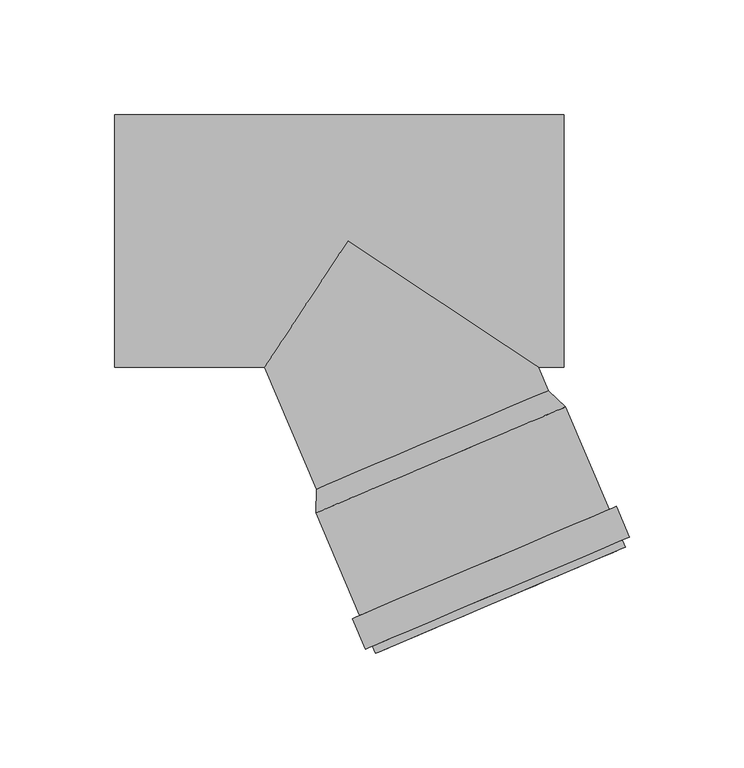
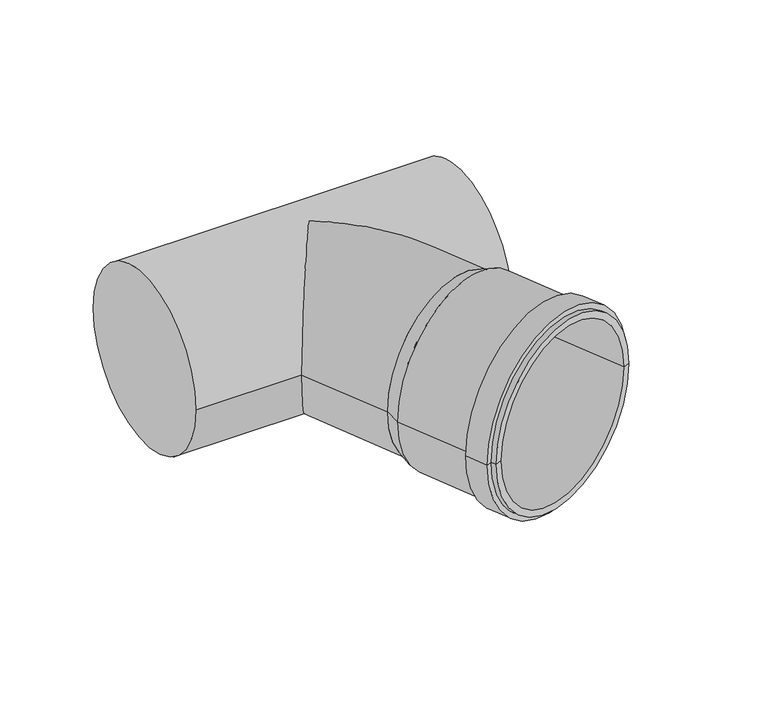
"""IFC4 building model written with IfcOpenShell, lengths in millimetres: pipe fitting geometry, pf_HTEA : pf_HTEA."""

import ifcopenshell
import ifcopenshell.guid

model = None  # the IFC model being written
_history = None  # IfcOwnerHistory: only IFC2X3 demands one
_inside = {}  # id of a spatial element -> (the spatial element, [elements in it])
_under = {}  # id of a project, library or spatial element -> (it, [spatial elements below it])
_declared = {}  # id of a project -> (the project, [libraries it declares])
_typed = {}  # id of a type object -> (the type object, [elements of that type])
_made_of = {}  # id of a material, layer set ... -> (it, [elements and type objects made of it])


def new_model(schema):
    """Start an empty IFC model of exactly this schema.

    Asked for "IFC4X3", IfcOpenShell would pick the latest addendum, in which some entities
    have other attributes; the version numbers below select the first issue.
    IFC2X3 requires an IfcOwnerHistory on every rooted entity: one is made here for all.
    """
    global model, _history
    if schema == "IFC4X3":
        model = ifcopenshell.file(schema_version=(4, 3, 0, 0))
    else:
        model = ifcopenshell.file(schema=schema)
    _inside.clear()
    _under.clear()
    _declared.clear()
    _typed.clear()
    _made_of.clear()
    _history = None
    if model.schema == "IFC2X3":
        org = make("IfcOrganization", Name="unknown")
        user = make(
            "IfcPersonAndOrganization",
            ThePerson=make("IfcPerson", FamilyName="unknown"),
            TheOrganization=org,
        )
        app = make(
            "IfcApplication",
            ApplicationDeveloper=org,
            Version="unknown",
            ApplicationFullName="unknown",
            ApplicationIdentifier="unknown",
        )
        _history = make(
            "IfcOwnerHistory",
            OwningUser=user,
            OwningApplication=app,
            ChangeAction="ADDED",
            CreationDate=0,
        )
    return model


def make(cls, **values):
    """One entity of the class cls with the attributes given. An attribute that is None is left unset."""
    return model.create_entity(
        cls, **{name: value for name, value in values.items() if value is not None}
    )


def rooted(cls, **values):
    """An entity with a GlobalId (a new one), such as an element, a storey or a relation."""
    return make(cls, GlobalId=ifcopenshell.guid.new(), OwnerHistory=_history, **values)


def si_unit(unit_type, name, prefix=None):
    """IfcSIUnit, for example si_unit("LENGTHUNIT", "METRE", prefix="MILLI")."""
    return make("IfcSIUnit", UnitType=unit_type, Prefix=prefix, Name=name)


def assignment(units):
    """IfcUnitAssignment: the units of a project."""
    return None if units is None else make("IfcUnitAssignment", Units=units)


def point(xyz):
    """IfcCartesianPoint."""
    return None if xyz is None else make("IfcCartesianPoint", Coordinates=xyz)


def direction(xyz):
    """IfcDirection."""
    return None if xyz is None else make("IfcDirection", DirectionRatios=xyz)


def frame(location, z_axis=None, x_axis=None):
    """IfcAxis2Placement3D, a coordinate frame: its origin and axes. An axis left out is left unset."""
    return make(
        "IfcAxis2Placement3D",
        Location=point(location),
        Axis=direction(z_axis),
        RefDirection=direction(x_axis),
    )


def origin():
    """The frame at (0, 0, 0) with its axes left unset."""
    return frame((0.0, 0.0, 0.0))


def place(relative_to, where):
    """IfcLocalPlacement: puts the frame where relative to a parent placement (None: the world)."""
    return make(
        "IfcLocalPlacement", PlacementRelTo=relative_to, RelativePlacement=where
    )


def context(
    kind, dimensions, precision=None, world=None, true_north=None, identifier=None
):
    """IfcGeometricRepresentationContext, for example the 3D "Model" context."""
    return make(
        "IfcGeometricRepresentationContext",
        ContextIdentifier=identifier,
        ContextType=kind,
        CoordinateSpaceDimension=dimensions,
        Precision=precision,
        WorldCoordinateSystem=world,
        TrueNorth=true_north,
    )


def project(units=None, contexts=None):
    """IfcProject with its units and contexts."""
    return rooted(
        "IfcProject",
        Name="project",
        RepresentationContexts=contexts,
        UnitsInContext=assignment(units),
    )


def spatial(cls, under=None, at=None, **own):
    """A site, building, storey or space (cls), placed at a placement, below another one or the project."""
    s = rooted(cls, ObjectPlacement=at, **own)
    if under is not None:
        _under.setdefault(under.id(), (under, []))[1].append(s)
    return s


def polyline(points):
    """IfcPolyline through the points."""
    return make("IfcPolyline", Points=[point(p) for p in points])


def circle_curve(where, radius):
    """IfcCircle in the frame where."""
    return make("IfcCircle", Position=where, Radius=radius)


def ellipse_curve(where, semi_axis1, semi_axis2):
    """IfcEllipse in the frame where."""
    return make(
        "IfcEllipse", Position=where, SemiAxis1=semi_axis1, SemiAxis2=semi_axis2
    )


def shape(context_of_items, identifier, shape_type, items):
    """IfcShapeRepresentation: the items that make up one representation, for example the "Body"."""
    return make(
        "IfcShapeRepresentation",
        ContextOfItems=context_of_items,
        RepresentationIdentifier=identifier,
        RepresentationType=shape_type,
        Items=items,
    )


def source(mapping_origin, context_of_items, identifier, shape_type, items):
    """IfcRepresentationMap: a shape defined once, which mapped items show again and again."""
    return make(
        "IfcRepresentationMap",
        MappingOrigin=mapping_origin,
        MappedRepresentation=shape(context_of_items, identifier, shape_type, items),
    )


def transform(
    local_origin,
    x_axis=None,
    y_axis=None,
    z_axis=None,
    scale=None,
    scale2=None,
    scale3=None,
    uniform=True,
):
    """IfcCartesianTransformationOperator3D, or its non-uniform kind. x_axis, y_axis, z_axis: its Axis1, 2, 3."""
    if uniform:
        return make(
            "IfcCartesianTransformationOperator3D",
            Axis1=direction(x_axis),
            Axis2=direction(y_axis),
            LocalOrigin=point(local_origin),
            Scale=scale,
            Axis3=direction(z_axis),
        )
    return make(
        "IfcCartesianTransformationOperator3DnonUniform",
        Axis1=direction(x_axis),
        Axis2=direction(y_axis),
        LocalOrigin=point(local_origin),
        Scale=scale,
        Axis3=direction(z_axis),
        Scale2=scale2,
        Scale3=scale3,
    )


def mapped(mapping_source, mapping_target):
    """IfcMappedItem: shows the shape of a source again, moved by a transform."""
    return make(
        "IfcMappedItem", MappingSource=mapping_source, MappingTarget=mapping_target
    )


def made_of(thing, what):
    """Note that an element or type object is made of a material, layer set ...; save() writes the relation."""
    if what is not None:
        _made_of.setdefault(what.id(), (what, []))[1].append(thing)
    return thing


def element(
    cls,
    number,
    at=None,
    inside=None,
    cuts=None,
    type_object=None,
    material=None,
    context=None,
    identifier="Body",
    shape_type=None,
    held_by="IfcProductDefinitionShape",
    body=None,
    shapes=None,
    **own,
):
    """One element of the class cls, such as IfcWall. Its Tag is "e" and its number.

    at: its placement. inside: the storey or other place that contains it. cuts: it is an
    opening in that element (IfcRelVoidsElement). A single representation is given by context,
    identifier, shape_type and body (its items); several are given by shapes. held_by: the class
    of the entity that holds the representations. save() writes the other relations.
    """
    e = rooted(cls, Tag="e%d" % number, ObjectPlacement=at, **own)
    if body is not None:
        shapes = [shape(context, identifier, shape_type, body)]
    if shapes is not None:
        e.Representation = make(held_by, Representations=shapes)
    if inside is not None:
        _inside.setdefault(inside.id(), (inside, []))[1].append(e)
    if cuts is not None:
        rooted(
            "IfcRelVoidsElement", RelatingBuildingElement=cuts, RelatedOpeningElement=e
        )
    if type_object is not None:
        _typed.setdefault(type_object.id(), (type_object, []))[1].append(e)
    return made_of(e, material)


def aggregate(whole, parts):
    """IfcRelAggregates: a whole, such as a stair, and the parts it consists of."""
    return rooted("IfcRelAggregates", RelatingObject=whole, RelatedObjects=parts)


def save(model, path):
    """Write the relations noted so far, then the file.

    IfcRelAggregates (storeys below a building ...), IfcRelContainedInSpatialStructure (elements
    in a storey), IfcRelDefinesByType, IfcRelAssociatesMaterial and IfcRelDeclares: one each for
    every whole, place, type object, material and project.
    """
    for whole, parts in _under.values():
        aggregate(whole, parts)
    for where, things in _inside.values():
        rooted(
            "IfcRelContainedInSpatialStructure",
            RelatedElements=things,
            RelatingStructure=where,
        )
    for kind, things in _typed.values():
        rooted("IfcRelDefinesByType", RelatedObjects=things, RelatingType=kind)
    for what, things in _made_of.values():
        rooted("IfcRelAssociatesMaterial", RelatedObjects=things, RelatingMaterial=what)
    for by, libraries in _declared.values():
        rooted("IfcRelDeclares", RelatingContext=by, RelatedDefinitions=libraries)
    model.write(path)


def plane_surface(at):
    """IfcPlane: the flat surface through the origin of the frame at, square to its z axis."""
    return make("IfcPlane", Position=at)


def cylinder_surface(at, radius):
    """IfcCylindricalSurface: all points at the distance radius from the z axis of the frame at."""
    return make("IfcCylindricalSurface", Position=at, Radius=radius)


def revolved_surface(curve, axis_point, axis_direction):
    """IfcSurfaceOfRevolution: the curve turned about the line through axis_point along axis_direction."""
    return make(
        "IfcSurfaceOfRevolution",
        SweptCurve=make("IfcArbitraryOpenProfileDef", ProfileType="CURVE", Curve=curve),
        AxisPosition=make("IfcAxis1Placement", Location=point(axis_point), Axis=direction(axis_direction)),
    )


def advanced_brep(points, edges, surfaces, faces):
    """IfcAdvancedBrep: a solid bounded by faces that lie on surfaces and meet in shared edges.

    An edge is (start, end): straight between two places in points (the first is 0);
    or (start, end, curve); or (start, end, curve, False) where it runs against its curve.
    A face is (place in surfaces, loops), or (place, loops, False) where it looks against
    its surface's normal. A loop lists edges by number (the first is 1), with a minus sign
    where the edge is run from its end to its start. The first loop is the outer one.
    """
    corners = [point(p) for p in points]
    vertices = [make("IfcVertexPoint", VertexGeometry=c) for c in corners]
    made = []
    for start, end, *more in edges:
        made.append(
            make(
                "IfcEdgeCurve",
                EdgeStart=vertices[start],
                EdgeEnd=vertices[end],
                EdgeGeometry=more[0] if more else make("IfcPolyline", Points=[corners[start], corners[end]]),
                SameSense=more[1] if len(more) > 1 else True,
            )
        )
    hull = []
    for where, loops, *sense in faces:
        bounds = []
        for j, loop in enumerate(loops):
            ring = [make("IfcOrientedEdge", EdgeElement=made[abs(k) - 1], Orientation=k > 0) for k in loop]
            bounds.append(
                make(
                    "IfcFaceOuterBound" if j == 0 else "IfcFaceBound",
                    Bound=make("IfcEdgeLoop", EdgeList=ring),
                    Orientation=True,
                )
            )
        hull.append(make("IfcAdvancedFace", Bounds=bounds, FaceSurface=surfaces[where], SameSense=sense[0] if sense else True))
    return make("IfcAdvancedBrep", Outer=make("IfcClosedShell", CfsFaces=hull))


def pipe_fitting_c2e4f513(model_context):
    return source(origin(), model_context, "Body", "AdvancedBrep", [
        advanced_brep(
        [(-13.8208946, -108.2017693, 0.0), (87.4346392, -65.2213451, 0.0), (94.9206549, -72.3641436, 0.0), (-13.8830188, -118.548563, 0.0), (36.8068723, -86.7115572, 0.0), (12.1006012, -179.7621358, 0.0), (120.9042749, -133.5777164, 0.0), (117.130205, -135.179714, 0.0), (15.8746711, -178.1601381, 0.0), (10.7721154, -176.6324192, 0.0), (119.5757891, -130.4479999, 0.0), (7.6423989, -177.9609051, 0.0), (122.7055056, -129.119514, 0.0), (1.9767975, -164.6135847, 0.0), (117.0399042, -115.7721937, 0.0), (5.106514, -163.2850989, 0.0), (113.9101877, -117.1006795, 0.0), (-10.1089489, -116.9465654, 0.0), (91.146585, -73.9661412, 0.0), (40.518818, -95.4563533, 0.0)],
        [
            (0, 1, circle_curve(frame((36.8068723, -86.7115572, 0.0), z_axis=(0.39073112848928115, -0.9205048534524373, 0.0), x_axis=(0.9205048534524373, 0.39073112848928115, 0.0)), 55.0)),
            (1, 2),
            (2, 3, circle_curve(frame((40.518818, -95.4563533, 0.0), z_axis=(-0.39073112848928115, 0.9205048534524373, 0.0), x_axis=(0.9205048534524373, 0.39073112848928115, 0.0)), 59.1)),
            (3, 0),
            (1, 0, circle_curve(frame((36.8068723, -86.7115572, 0.0), z_axis=(0.39073112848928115, -0.9205048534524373, 0.0), x_axis=(0.9205048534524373, 0.39073112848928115, 0.0)), 55.0)),
            (3, 2, circle_curve(frame((40.518818, -95.4563533, 0.0), z_axis=(-0.39073112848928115, 0.9205048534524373, 0.0), x_axis=(0.9205048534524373, 0.39073112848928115, 0.0)), 59.1)),
            (4, 1),
            (0, 4),
            (5, 6, circle_curve(frame((66.5024381, -156.6699261, 0.0), z_axis=(0.39073112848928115, -0.9205048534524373, 0.0), x_axis=(0.9205048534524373, 0.39073112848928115, 0.0)), 59.1)),
            (6, 7),
            (7, 8, circle_curve(frame((66.5024381, -156.6699261, 0.0), z_axis=(-0.39073112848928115, 0.9205048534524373, 0.0), x_axis=(0.9205048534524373, 0.39073112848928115, 0.0)), 55.0)),
            (8, 5),
            (6, 5, circle_curve(frame((66.5024381, -156.6699261, 0.0), z_axis=(0.39073112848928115, -0.9205048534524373, 0.0), x_axis=(0.9205048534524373, 0.39073112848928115, 0.0)), 59.1)),
            (8, 7, circle_curve(frame((66.5024381, -156.6699261, 0.0), z_axis=(-0.39073112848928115, 0.9205048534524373, 0.0), x_axis=(0.9205048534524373, 0.39073112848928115, 0.0)), 55.0)),
            (9, 10, circle_curve(frame((65.1739522, -153.5402096, 0.0), z_axis=(0.39073112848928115, -0.9205048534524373, 0.0), x_axis=(0.9205048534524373, 0.39073112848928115, 0.0)), 59.1)),
            (10, 6),
            (5, 9),
            (10, 9, circle_curve(frame((65.1739522, -153.5402096, 0.0), z_axis=(0.39073112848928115, -0.9205048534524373, 0.0), x_axis=(0.9205048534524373, 0.39073112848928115, 0.0)), 59.1)),
            (11, 12, circle_curve(frame((65.1739522, -153.5402096, 0.0), z_axis=(0.39073112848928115, -0.9205048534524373, 0.0), x_axis=(0.9205048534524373, 0.39073112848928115, 0.0)), 62.5)),
            (12, 10),
            (9, 11),
            (12, 11, circle_curve(frame((65.1739522, -153.5402096, 0.0), z_axis=(0.39073112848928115, -0.9205048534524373, 0.0), x_axis=(0.9205048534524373, 0.39073112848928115, 0.0)), 62.5)),
            (13, 14, circle_curve(frame((59.5083509, -140.1928892, 0.0), z_axis=(0.39073112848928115, -0.9205048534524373, 0.0), x_axis=(0.9205048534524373, 0.39073112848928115, 0.0)), 62.5)),
            (14, 12),
            (11, 13),
            (14, 13, circle_curve(frame((59.5083509, -140.1928892, 0.0), z_axis=(0.39073112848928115, -0.9205048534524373, 0.0), x_axis=(0.9205048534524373, 0.39073112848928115, 0.0)), 62.5)),
            (15, 16, circle_curve(frame((59.5083509, -140.1928892, 0.0), z_axis=(0.39073112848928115, -0.9205048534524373, 0.0), x_axis=(0.9205048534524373, 0.39073112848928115, 0.0)), 59.1)),
            (16, 14),
            (13, 15),
            (16, 15, circle_curve(frame((59.5083509, -140.1928892, 0.0), z_axis=(0.39073112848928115, -0.9205048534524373, 0.0), x_axis=(0.9205048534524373, 0.39073112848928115, 0.0)), 59.1)),
            (2, 16),
            (15, 3),
            (17, 18, circle_curve(frame((40.518818, -95.4563533, 0.0), z_axis=(0.39073112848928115, -0.9205048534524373, 0.0), x_axis=(0.9205048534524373, 0.39073112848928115, 0.0)), 55.0)),
            (18, 19),
            (19, 17),
            (18, 17, circle_curve(frame((40.518818, -95.4563533, 0.0), z_axis=(0.39073112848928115, -0.9205048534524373, 0.0), x_axis=(0.9205048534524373, 0.39073112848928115, 0.0)), 55.0)),
            (7, 18),
            (17, 8),
        ],
        [
            revolved_surface(polyline([(94.9206549, -72.3641436, 0.0), (87.4346392, -65.2213451, 0.0)]), (36.8068723, -86.7115572, 0.0), (-0.39073112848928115, 0.9205048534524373, 0.0)),
            plane_surface(frame((36.8068723, -86.7115572, 0.0), z_axis=(-0.39073112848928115, 0.9205048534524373, 0.0), x_axis=(0.9205048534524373, 0.39073112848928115, 0.0))),
            plane_surface(frame((66.5024381, -156.6699261, 0.0), z_axis=(0.39073112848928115, -0.9205048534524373, 0.0), x_axis=(0.9205048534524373, 0.39073112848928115, 0.0))),
            cylinder_surface(frame((36.8068723, -86.7115572, 0.0), z_axis=(-0.39073112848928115, 0.9205048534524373, 0.0), x_axis=(0.9205048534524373, 0.39073112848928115, 0.0)), 59.1),
            plane_surface(frame((65.1739522, -153.5402096, 0.0), z_axis=(0.39073112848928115, -0.9205048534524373, 0.0), x_axis=(0.9205048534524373, 0.39073112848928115, 0.0))),
            cylinder_surface(frame((36.8068723, -86.7115572, 0.0), z_axis=(-0.39073112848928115, 0.9205048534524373, 0.0), x_axis=(0.9205048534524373, 0.39073112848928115, 0.0)), 62.5),
            plane_surface(frame((59.5083509, -140.1928892, 0.0), z_axis=(-0.39073112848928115, 0.9205048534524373, 0.0), x_axis=(0.9205048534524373, 0.39073112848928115, 0.0))),
            plane_surface(frame((40.518818, -95.4563533, 0.0), z_axis=(0.39073112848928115, -0.9205048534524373, 0.0), x_axis=(0.9205048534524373, 0.39073112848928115, 0.0))),
            revolved_surface(polyline([(91.14658495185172, -73.96614122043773, 0.0), (117.1302050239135, -135.17971403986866, 0.0)]), (36.8068723, -86.7115572, 0.0), (-0.39073112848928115, 0.9205048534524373, 0.0)),
        ],
        [
            (0, [[1, 2, 3, 4]]),
            (0, [[5, -4, 6, -2]]),
            (1, [[7, -1, 8]]),
            (1, [[-8, -5, -7]]),
            (2, [[9, 10, 11, 12]]),
            (2, [[13, -12, 14, -10]]),
            (3, [[15, 16, -9, 17]]),
            (3, [[18, -17, -13, -16]]),
            (4, [[19, 20, -15, 21]]),
            (4, [[22, -21, -18, -20]]),
            (5, [[23, 24, -19, 25]]),
            (5, [[26, -25, -22, -24]]),
            (6, [[27, 28, -23, 29]]),
            (6, [[30, -29, -26, -28]]),
            (3, [[-3, 31, -27, 32]]),
            (3, [[-6, -32, -30, -31]]),
            (7, [[33, 34, 35]]),
            (7, [[36, -35, -34]]),
            (8, [[-11, 37, -33, 38]]),
            (8, [[-14, -38, -36, -37]]),
        ],
    ),
        advanced_brep(
        [(-13.8208946, -108.2017693, 0.0), (87.4346392, -65.2213451, 0.0), (-101.8, -55.0, 0.0), (-101.8, 55.0, 0.0), (94.2, -55.0, 0.0), (94.2, 55.0, 0.0), (-36.4037059, -55.0, 0.0), (0.0, 0.0, 55.0), (83.0959356, -55.0, 0.0), (0.0, 0.0, -55.0)],
        [
            (0, 1, circle_curve(frame((36.8068723, -86.7115572, 0.0), z_axis=(0.3907311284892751, -0.9205048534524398, 0.0), x_axis=(0.9205048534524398, 0.3907311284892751, 0.0)), 55.0)),
            (1, 0, circle_curve(frame((36.8068723, -86.7115572, 0.0), z_axis=(0.3907311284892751, -0.9205048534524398, 0.0), x_axis=(0.9205048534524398, 0.3907311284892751, 0.0)), 55.0)),
            (2, 3, circle_curve(frame((-101.8, 0.0, 0.0), z_axis=(-1.0, 0.0, 0.0), x_axis=(0.0, 1.0, 0.0)), 55.0)),
            (3, 2, circle_curve(frame((-101.8, 0.0, 0.0), z_axis=(-1.0, 0.0, 0.0), x_axis=(0.0, 1.0, 0.0)), 55.0)),
            (4, 5, circle_curve(frame((94.2, 0.0, 0.0), z_axis=(1.0, 0.0, 0.0), x_axis=(0.0, 1.0, 0.0)), 55.0)),
            (5, 4, circle_curve(frame((94.2, 0.0, 0.0), z_axis=(1.0, 0.0, 0.0), x_axis=(0.0, 1.0, 0.0)), 55.0)),
            (2, 6),
            (6, 7, ellipse_curve(frame((0.0, 0.0, 0.0), z_axis=(-0.8338858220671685, 0.5519369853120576, 0.0), x_axis=(-0.5519369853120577, -0.8338858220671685, 0.0)), 65.9562719, 55.0)),
            (7, 8, ellipse_curve(frame((0.0, 0.0, 0.0), z_axis=(0.5519369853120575, 0.8338858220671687, 0.0), x_axis=(-0.8338858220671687, 0.5519369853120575, 0.0)), 99.6490568, 55.0)),
            (8, 4),
            (5, 3),
            (8, 9, ellipse_curve(frame((0.0, 0.0, 0.0), z_axis=(0.5519369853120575, 0.8338858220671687, 0.0), x_axis=(-0.8338858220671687, 0.5519369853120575, 0.0)), 99.6490568, 55.0)),
            (9, 6, ellipse_curve(frame((0.0, 0.0, 0.0), z_axis=(-0.8338858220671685, 0.5519369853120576, 0.0), x_axis=(-0.5519369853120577, -0.8338858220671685, 0.0)), 65.9562719, 55.0)),
            (1, 8),
            (6, 0),
        ],
        [
            plane_surface(frame((36.8068723, -86.7115572, 0.0), z_axis=(0.390731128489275, -0.9205048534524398, 0.0), x_axis=(0.0, 0.0, 1.0))),
            plane_surface(frame((-101.8, 0.0, 0.0), z_axis=(-1.0, 0.0, 0.0), x_axis=(0.0, 0.0, 1.0))),
            plane_surface(frame((94.2, 0.0, 0.0), z_axis=(1.0, 0.0, 0.0), x_axis=(0.0, 0.0, 1.0))),
            cylinder_surface(frame((-101.8, 0.0, 0.0), z_axis=(-1.0, 0.0, 0.0), x_axis=(0.0, 1.0, 0.0)), 55.0),
            cylinder_surface(frame((0.0, 0.0, 0.0), z_axis=(-0.3907311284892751, 0.9205048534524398, 0.0), x_axis=(0.9205048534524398, 0.3907311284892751, 0.0)), 55.0),
        ],
        [
            (0, [[1, 2]]),
            (1, [[3, 4]]),
            (2, [[5, 6]]),
            (3, [[-3, 7, 8, 9, 10, -6, 11]]),
            (3, [[-4, -11, -5, -10, 12, 13, -7]]),
            (4, [[-2, 14, -9, -8, 15]]),
            (4, [[-1, -15, -13, -12, -14]]),
        ],
    ),
    ])


if __name__ == "__main__":
    model = new_model("IFC4")
    model_context = context("Model", 3, world=origin())
    ifc_project = project(units=[si_unit("LENGTHUNIT", "METRE", prefix="MILLI")], contexts=[model_context])
    site = spatial("IfcSite", under=ifc_project)
    building = spatial("IfcBuilding", under=site)
    placement = place(None, origin())
    pipe_fitting_shape = pipe_fitting_c2e4f513(model_context)
    element("IfcPipeFitting", 1, ObjectType="pf_HTEA : pf_HTEA", at=placement, inside=building, context=model_context, shape_type="MappedRepresentation", body=[
        mapped(pipe_fitting_shape, transform((0.0, 0.0, 0.0), x_axis=(1.0, 0.0, 0.0), y_axis=(0.0, 1.0, 0.0), z_axis=(0.0, 0.0, 1.0))),
    ])
    save(model, "model.ifc")
